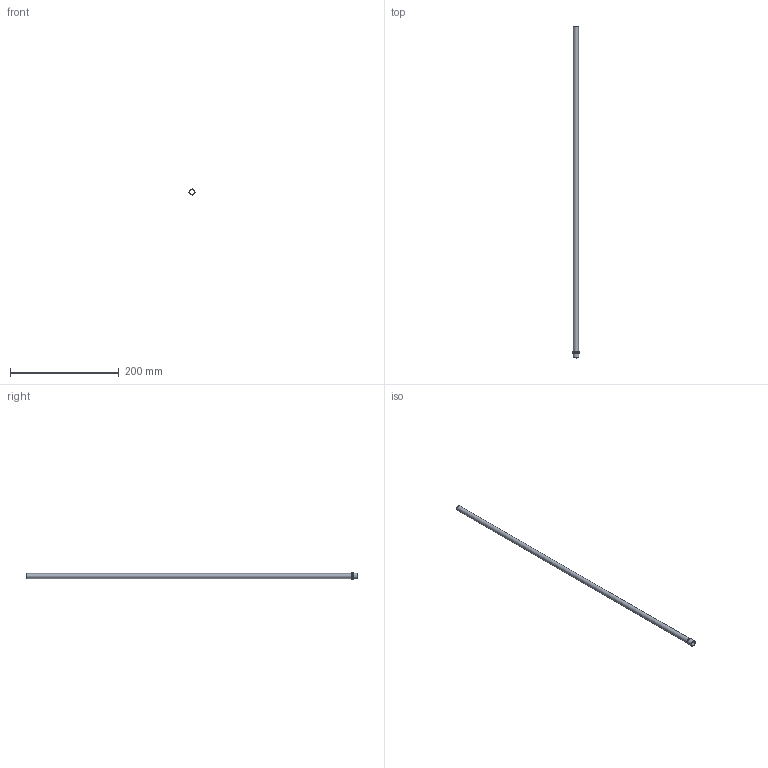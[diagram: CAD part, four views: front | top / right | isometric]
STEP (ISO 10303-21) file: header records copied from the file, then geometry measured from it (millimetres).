
FILE_DESCRIPTION(/* description */ (''),/* implementation_level */ '2;1');
FILE_NAME(/* name */ 'C:/Users/drich/Desktop/HF375T-24 v1.step',/* time_stamp */ '2019-12-30T13:32:36-06:00',/* author */ (''),/* organization */ (''),/* preprocessor_version */ 'ST-DEVELOPER v18',/* originating_system */ 'Autodesk Translation Framework v8.12.0.6',/* authorisation */ '');
FILE_SCHEMA (('AUTOMOTIVE_DESIGN { 1 0 10303 214 3 1 1 }'));
Length unit declared in the file: inch
Products named in the file (1): HF375T-24
Bounding box: 11.15 x 609.6 x 11.15 mm (x, y, z)
Volume: 5749.6 mm3; surface area: 34418.1 mm2
Topology: 1 solids, 1 shells, 12 faces, 30 edges, 22 vertices
Faces by surface type: plane 4, cylinder 4, torus 3, cone 1
Full cylindrical faces by diameter (mm): 8.636 x1, 9.271 x1, 10.978 x1, 11.151 x1
Entity records: 426 total; most frequent: DIRECTION 81, CARTESIAN_POINT 65, ORIENTED_EDGE 60, AXIS2_PLACEMENT_3D 38, EDGE_CURVE 30, CIRCLE 25, VERTEX_POINT 22, EDGE_LOOP 16
